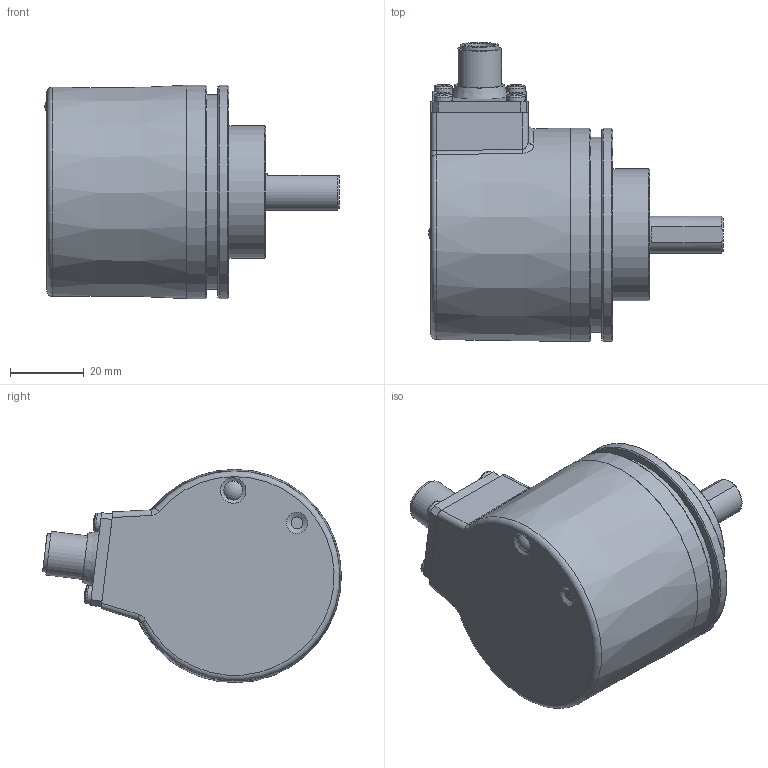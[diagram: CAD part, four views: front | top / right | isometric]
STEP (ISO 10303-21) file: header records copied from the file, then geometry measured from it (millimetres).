
FILE_DESCRIPTION (( 'STEP AP214' ), '1' );
FILE_NAME ('8.F5863.12X6.XXXX.STEP', '2014-09-16T09:21:36', ( 'HeirlerN' ), ( 'Microsoft' ), 'SwSTEP 2.0', 'SolidWorks 2013', '' );
FILE_SCHEMA (( 'AUTOMOTIVE_DESIGN' ));
Length unit declared in the file: millimetre
Products named in the file (1): 8.F5863.12X6.XXXX
Bounding box: 80.1 x 81.25 x 58 mm (x, y, z)
Surface area: 21526.5 mm2 (no closed solid volume)
Topology: 0 solids, 18 shells, 161 faces, 425 edges, 278 vertices
Faces by surface type: plane 81, cylinder 34, cone 17, sphere 13, torus 10, bspline 6
Full cylindrical faces by diameter (mm): 0.8 x8, 2.5 x3, 3.2 x1, 3.3 x3, 5 x4, 5.2 x1, 10 x1, 10.5 x1, 12 x1, 26 x1, 28 x1, 36 x1, 53 x1, 58 x2
Entity records: 6403 total; most frequent: CARTESIAN_POINT 1058, DIRECTION 780, ORIENTED_EDGE 582, EDGE_CURVE 325, AXIS2_PLACEMENT_3D 318, EDGE_LOOP 249, VERTEX_POINT 247, FACE_OUTER_BOUND 202
